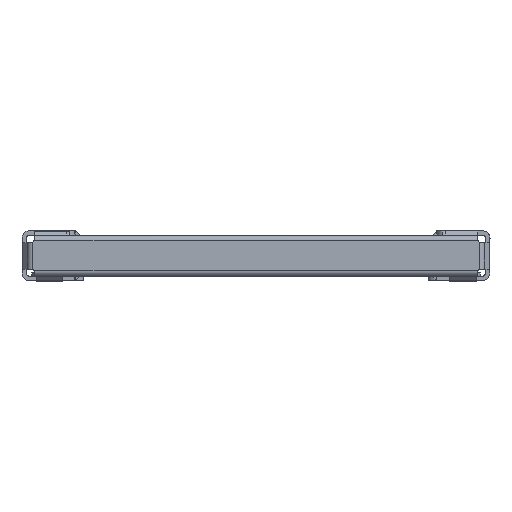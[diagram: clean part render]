
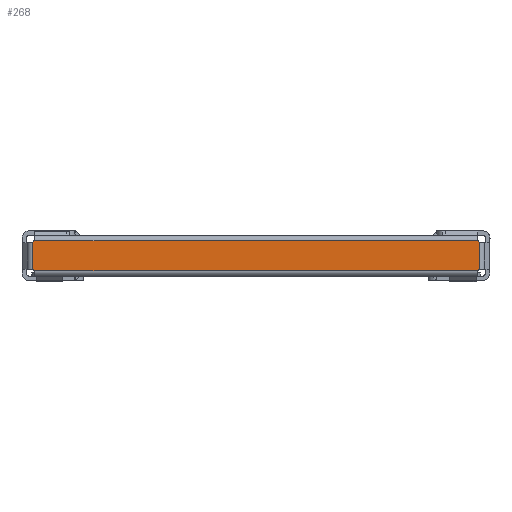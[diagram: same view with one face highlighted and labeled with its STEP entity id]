
A CAD part, left-side view. The second image highlights one B-rep face of the part: STEP entity #268.
In plain terms, the highlighted planar face has unit normal (-1, 0, 0).
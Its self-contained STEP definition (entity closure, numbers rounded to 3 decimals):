
#197=AXIS2_PLACEMENT_3D('Circle Axis2P3D',#195,#196,$) ;
#216=AXIS2_PLACEMENT_3D('Plane Axis2P3D',#213,#214,#215) ;
#229=AXIS2_PLACEMENT_3D('Circle Axis2P3D',#227,#228,$) ;
#241=AXIS2_PLACEMENT_3D('Circle Axis2P3D',#239,#240,$) ;
#255=AXIS2_PLACEMENT_3D('Circle Axis2P3D',#253,#254,$) ;
#52=CARTESIAN_POINT('Vertex',(957.904,-1881.487,145.869)) ;
#55=CARTESIAN_POINT('Line Origine',(957.904,-1881.487,138.101)) ;
#59=CARTESIAN_POINT('Vertex',(957.904,-1881.487,130.333)) ;
#192=CARTESIAN_POINT('Vertex',(957.904,-1880.755,146.601)) ;
#195=CARTESIAN_POINT('Axis2P3D Location',(957.904,-1882.487,147.601)) ;
#213=CARTESIAN_POINT('Axis2P3D Location',(957.904,-1169.614,-37.055)) ;
#218=CARTESIAN_POINT('Line Origine',(957.904,-1754.992,129.6)) ;
#222=CARTESIAN_POINT('Vertex',(957.904,-1629.229,129.6)) ;
#224=CARTESIAN_POINT('Vertex',(957.904,-1880.755,129.601)) ;
#227=CARTESIAN_POINT('Axis2P3D Location',(957.904,-1882.487,128.601)) ;
#232=CARTESIAN_POINT('Line Origine',(957.904,-1754.992,146.6)) ;
#236=CARTESIAN_POINT('Vertex',(957.904,-1629.229,146.6)) ;
#239=CARTESIAN_POINT('Axis2P3D Location',(957.904,-1627.497,147.6)) ;
#243=CARTESIAN_POINT('Vertex',(957.904,-1628.497,145.868)) ;
#246=CARTESIAN_POINT('Line Origine',(957.904,-1628.497,138.1)) ;
#250=CARTESIAN_POINT('Vertex',(957.904,-1628.497,130.332)) ;
#253=CARTESIAN_POINT('Axis2P3D Location',(957.904,-1627.497,128.6)) ;
#56=DIRECTION('Vector Direction',(0.,0.,1.)) ;
#196=DIRECTION('Axis2P3D Direction',(1.,0.,0.)) ;
#214=DIRECTION('Axis2P3D Direction',(-1.,0.,0.)) ;
#215=DIRECTION('Axis2P3D XDirection',(0.,-1.,0.)) ;
#219=DIRECTION('Vector Direction',(0.,1.,0.)) ;
#228=DIRECTION('Axis2P3D Direction',(-1.,0.,0.)) ;
#233=DIRECTION('Vector Direction',(0.,-1.,0.)) ;
#240=DIRECTION('Axis2P3D Direction',(-1.,0.,0.)) ;
#247=DIRECTION('Vector Direction',(0.,0.,-1.)) ;
#254=DIRECTION('Axis2P3D Direction',(-1.,0.,0.)) ;
#57=VECTOR('Line Direction',#56,1.) ;
#220=VECTOR('Line Direction',#219,1.) ;
#234=VECTOR('Line Direction',#233,1.) ;
#248=VECTOR('Line Direction',#247,1.) ;
#259=ORIENTED_EDGE('',*,*,#226,.T.) ;
#260=ORIENTED_EDGE('',*,*,#231,.T.) ;
#261=ORIENTED_EDGE('',*,*,#61,.F.) ;
#262=ORIENTED_EDGE('',*,*,#199,.T.) ;
#263=ORIENTED_EDGE('',*,*,#238,.T.) ;
#264=ORIENTED_EDGE('',*,*,#245,.F.) ;
#265=ORIENTED_EDGE('',*,*,#252,.T.) ;
#266=ORIENTED_EDGE('',*,*,#257,.F.) ;
#268=ADVANCED_FACE('shangkuang1.1\\\X2\51E04F554F53\X0\.5',(#267),#217,.T.) ;
#198=CIRCLE('generated circle',#197,2.) ;
#230=CIRCLE('generated circle',#229,2.) ;
#242=CIRCLE('generated circle',#241,2.) ;
#256=CIRCLE('generated circle',#255,2.) ;
#61=EDGE_CURVE('',#53,#60,#58,.F.) ;
#199=EDGE_CURVE('',#53,#193,#198,.T.) ;
#226=EDGE_CURVE('',#223,#225,#221,.F.) ;
#231=EDGE_CURVE('',#225,#60,#230,.F.) ;
#238=EDGE_CURVE('',#193,#237,#235,.F.) ;
#245=EDGE_CURVE('',#244,#237,#242,.T.) ;
#252=EDGE_CURVE('',#244,#251,#249,.T.) ;
#257=EDGE_CURVE('',#223,#251,#256,.T.) ;
#258=EDGE_LOOP('',(#259,#260,#261,#262,#263,#264,#265,#266)) ;
#267=FACE_OUTER_BOUND('',#258,.T.) ;
#58=LINE('Line',#55,#57) ;
#221=LINE('Line',#218,#220) ;
#235=LINE('Line',#232,#234) ;
#249=LINE('Line',#246,#248) ;
#217=PLANE('Plane',#216) ;
#53=VERTEX_POINT('',#52) ;
#60=VERTEX_POINT('',#59) ;
#193=VERTEX_POINT('',#192) ;
#223=VERTEX_POINT('',#222) ;
#225=VERTEX_POINT('',#224) ;
#237=VERTEX_POINT('',#236) ;
#244=VERTEX_POINT('',#243) ;
#251=VERTEX_POINT('',#250) ;
